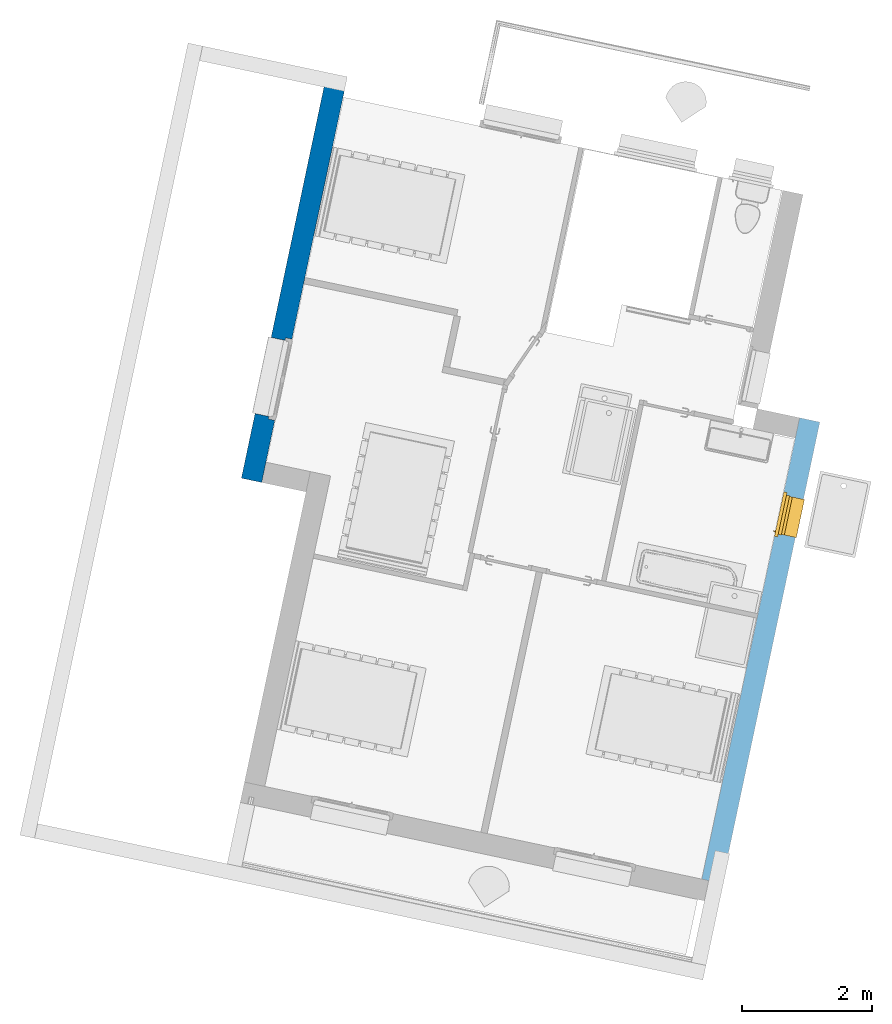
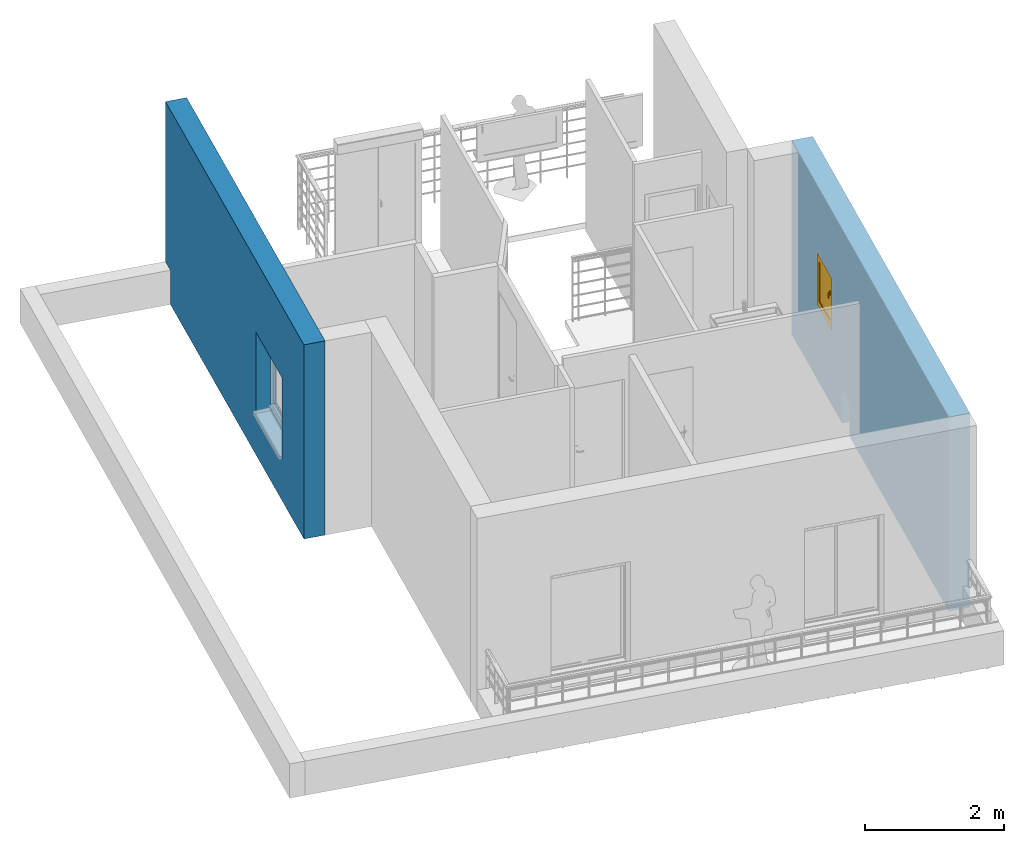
"""IFC2X3 building model written with IfcOpenShell, lengths in metres."""

from ifc_helpers import new_model, entity, si_unit, converted_unit, derived_unit, direction, frame, frame_2d, origin, place, context, subcontext, project, spatial, polyline, rectangle, extrude, clip, bounded_halfspace, faceted_brep, source, transform, mapped, material, material_list, layer, layer_set, layer_usage, type_object, type_shapes, element, fill, save


model = new_model("IFC2X3")

# Units and contexts
model_context = context("Model", 3, precision=1e-05, world=origin(), true_north=direction((6.12303176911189e-17, 1.0)))
body_context = subcontext(model_context, "Body", "Model", "MODEL_VIEW")
ifc_project = project(units=[si_unit("LENGTHUNIT", "METRE"), si_unit("AREAUNIT", "SQUARE_METRE"), si_unit("VOLUMEUNIT", "CUBIC_METRE"), converted_unit("PLANEANGLEUNIT", "DEGREE", entity("IfcRatioMeasure", 0.0174532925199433), si_unit("PLANEANGLEUNIT", "RADIAN"), dimensions=[0, 0, 0, 0, 0, 0, 0]), si_unit("MASSUNIT", "GRAM", prefix="KILO"), derived_unit("MASSDENSITYUNIT", [(si_unit("MASSUNIT", "GRAM", prefix="KILO"), 1), (si_unit("LENGTHUNIT", "METRE"), -3)]), si_unit("TIMEUNIT", "SECOND"), si_unit("FREQUENCYUNIT", "HERTZ"), si_unit("THERMODYNAMICTEMPERATUREUNIT", "DEGREE_CELSIUS"), derived_unit("THERMALTRANSMITTANCEUNIT", [(si_unit("MASSUNIT", "GRAM", prefix="KILO"), 1), (si_unit("THERMODYNAMICTEMPERATUREUNIT", "KELVIN"), -1), (si_unit("TIMEUNIT", "SECOND"), -3)]), derived_unit("VOLUMETRICFLOWRATEUNIT", [(si_unit("LENGTHUNIT", "METRE"), 3), (si_unit("TIMEUNIT", "SECOND"), -1)]), si_unit("ELECTRICCURRENTUNIT", "AMPERE"), si_unit("ELECTRICVOLTAGEUNIT", "VOLT"), si_unit("POWERUNIT", "WATT"), si_unit("FORCEUNIT", "NEWTON", prefix="KILO"), si_unit("ILLUMINANCEUNIT", "LUX"), si_unit("LUMINOUSFLUXUNIT", "LUMEN"), si_unit("LUMINOUSINTENSITYUNIT", "CANDELA"), derived_unit("USERDEFINED", [(si_unit("MASSUNIT", "GRAM", prefix="KILO"), -1), (si_unit("LENGTHUNIT", "METRE"), -2), (si_unit("TIMEUNIT", "SECOND"), 3), (si_unit("LUMINOUSFLUXUNIT", "LUMEN"), 1)]), derived_unit("LINEARVELOCITYUNIT", [(si_unit("LENGTHUNIT", "METRE"), 1), (si_unit("TIMEUNIT", "SECOND"), -1)]), si_unit("PRESSUREUNIT", "PASCAL"), derived_unit("USERDEFINED", [(si_unit("LENGTHUNIT", "METRE"), -2), (si_unit("MASSUNIT", "GRAM", prefix="KILO"), 1), (si_unit("TIMEUNIT", "SECOND"), -2)])], contexts=[model_context])

# Site, building, storey
site_placement = place(None, origin())
site = spatial("IfcSite", under=ifc_project, at=site_placement, Name="Default", CompositionType="ELEMENT")
building_placement = place(site_placement, origin())
building = spatial("IfcBuilding", under=site, at=building_placement, CompositionType="ELEMENT")
storey_1_placement = place(building_placement, frame((0.0, 0.0, 2.8)))
storey_1 = spatial("IfcBuildingStorey", under=building, at=storey_1_placement, Name="ETAGE", CompositionType="ELEMENT", Elevation=2.8)

# Wall, opening
ifc_material_1 = material(Name="Enduit blanc cassé2")
ifc_layer_1 = layer(ifc_material_1, 0.02)
ifc_material_2 = material(Name="Parpaing")
ifc_layer_2 = layer(ifc_material_2, 0.2)
ifc_material_3 = material(Name="Isolant")
ifc_layer_3 = layer(ifc_material_3, 0.1)
ifc_layer_set = layer_set([ifc_layer_1, ifc_layer_2, ifc_layer_3], Name="Mur de base:Ext. Parpaing 20 + Isolant 10 enduit blanc cassé")
ifc_layer_usage = layer_usage(ifc_layer_set, "AXIS2", "POSITIVE", -0.16)
wall_type = type_object("IfcWallType", Name="Mur de base:Ext. Parpaing 20 + Isolant 10 enduit blanc cassé", PredefinedType="STANDARD", material=ifc_layer_set)
wall_1_placement = place(storey_1_placement, frame((-11.7345230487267, 74.3445011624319, 0.0), z_axis=(0.0, 0.0, 1.0), x_axis=(0.207484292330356, 0.978238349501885, 0.0)))
wall_1 = element("IfcWallStandardCase", 1, at=wall_1_placement, inside=storey_1, type_object=wall_type, material=ifc_layer_usage, Name="Mur de base:Ext. Parpaing 20 + Isolant 10 enduit blanc cassé", ObjectType="Mur de base:Ext. Parpaing 20 + Isolant 10 enduit blanc cassé", context=body_context, shape_type="Clipping", body=[
    clip(extrude(rectangle(XDim=7.28, YDim=0.320000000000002, at=frame_2d((3.64, -4.16333634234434e-17), x_axis=(-1.0, 0.0))), origin(), (0.0, 0.0, 1.0), 3.40000000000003), bounded_halfspace(frame((4.60478728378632, -0.159999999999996, 0.58)), True, frame((4.60478728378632, -0.159999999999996, 0.58)), polyline([(0.0, 0.0), (0.340000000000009, 0.0), (0.340000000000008, 0.32), (0.0, 0.320000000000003), (0.0, 0.0)]))),
])
opening_placement = place(wall_1_placement, frame((5.25703090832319, 0.456950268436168, 1.24), z_axis=(0.0, 0.0, 1.0), x_axis=(0.207484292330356, -0.978238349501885, 0.0)))
opening = element("IfcOpeningElement", 2, at=opening_placement, cuts=wall_1, Name="Mur de base:Ext. Parpaing 20 + Isolant 10 enduit blanc cassé", ObjectType="Opening", context=body_context, shape_type="Brep", body=[
    faceted_brep([(0.410860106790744, 0.120340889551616, 0.0800000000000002), (0.410860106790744, 0.120340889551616, 0.0), (0.978238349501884, 0.0, 0.0), (0.978238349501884, 0.0, 0.93), (0.430424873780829, 0.116191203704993, 0.93), (0.430424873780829, 0.116191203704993, 0.0800000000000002), (0.12449057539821, 0.79442730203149, 0.0800000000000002), (0.12449057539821, 0.79442730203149, 0.93), (0.457091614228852, 0.72388264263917, 0.93), (0.457091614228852, 0.72388264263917, 0.0800000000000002), (0.0, 0.207484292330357, 0.0800000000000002), (0.467465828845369, 0.772794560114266, 0.0800000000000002), (0.516377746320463, 0.762420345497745, 0.0800000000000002), (0.508078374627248, 0.723290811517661, 0.0800000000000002), (0.556990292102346, 0.712916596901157, 0.0800000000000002), (0.554915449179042, 0.703134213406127, 0.0800000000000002), (0.535350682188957, 0.70728389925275, 0.0800000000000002), (0.428350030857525, 0.106408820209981, 0.0800000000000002), (0.379438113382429, 0.116783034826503, 0.0800000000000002), (0.371138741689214, 0.0776535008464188, 0.0800000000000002), (0.322226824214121, 0.0880277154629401, 0.0800000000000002), (0.332601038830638, 0.136939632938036, 0.0800000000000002), (0.0, 0.207484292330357, 0.93), (0.332601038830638, 0.136939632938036, 0.93), (1.1027289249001, 0.586943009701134, 0.0), (1.10272892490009, 0.586943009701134, 0.93), (0.535350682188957, 0.70728389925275, 0.0), (0.371138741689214, 0.0776535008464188, 0.979999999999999), (0.322226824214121, 0.0880277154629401, 0.979999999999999), (0.379438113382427, 0.116783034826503, 0.94), (0.508078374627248, 0.723290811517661, 0.94), (0.516377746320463, 0.762420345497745, 0.979999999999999), (0.428350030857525, 0.106408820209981, 0.94), (0.554915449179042, 0.703134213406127, 0.93), (0.556990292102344, 0.712916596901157, 0.94), (0.467465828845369, 0.772794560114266, 0.979999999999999)], [[[0, 1, 2, 3, 4, 5]], [[6, 7, 8, 9]], [[10, 6, 9, 11, 12, 13, 14, 15, 16, 0, 5, 17, 18, 19, 20, 21]], [[10, 22, 7, 6]], [[7, 22, 23, 8]], [[3, 2, 24, 25]], [[2, 1, 26, 24]], [[1, 0, 16, 26]], [[20, 19, 27, 28]], [[19, 18, 29, 30, 13, 12, 31, 27]], [[18, 17, 32, 29]], [[17, 5, 4, 33, 15, 14, 34, 32]], [[21, 20, 28, 35, 11, 9, 8, 23]], [[28, 27, 31, 35]], [[30, 29, 32, 34]], [[31, 12, 11, 35]], [[13, 30, 34, 14]], [[3, 25, 33, 4]], [[25, 24, 26, 16, 15, 33]], [[22, 10, 21, 23]]]),
])

# Storey
storey_2_placement = place(building_placement, frame((0.0, 0.0, 2.82)))
storey_2 = spatial("IfcBuildingStorey", under=building, at=storey_2_placement, Name="Etage 1", CompositionType="ELEMENT", Elevation=2.82)

# Window
ifc_material_4 = material(Name="Fenêtre - Poignée")
ifc_material_5 = material(Name="Fenêtre - Appui")
ifc_material_6 = material(Name="Verre - Opaque Blanc")
ifc_material_7 = material(Name="PVC - Blanc")
ifc_material_8 = material(Name="Fenêtre - Cadre")
ifc_material_list_1 = material_list([ifc_material_4, ifc_material_5, ifc_material_6, ifc_material_7, ifc_material_8])
ifc_material_list_2 = material_list([ifc_material_4, ifc_material_5, ifc_material_6, ifc_material_7, ifc_material_8])
window_style = type_object("IfcWindowStyle", Name=".60 X 0.85 HT 2", ConstructionType="NOTDEFINED", OperationType="SINGLE_PANEL", ParameterTakesPrecedence=False, Sizeable=False, material=ifc_material_list_2)
shared_shape = source(origin(), body_context, "Body", "Brep", [
    faceted_brep([(0.619353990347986, 0.653999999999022, 0.702033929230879), (0.630646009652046, 0.653999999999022, 0.702033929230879), (0.632033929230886, 0.653999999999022, 0.700646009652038), (0.632033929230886, 0.653999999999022, 0.689332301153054), (0.63066769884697, 0.653999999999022, 0.687966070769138), (0.619332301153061, 0.653999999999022, 0.687966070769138), (0.617966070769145, 0.653999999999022, 0.689332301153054), (0.617966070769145, 0.653999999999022, 0.700646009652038), (0.617966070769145, 0.641661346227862, 0.700646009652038), (0.619353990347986, 0.641086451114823, 0.702033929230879), (0.617966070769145, 0.646347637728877, 0.689332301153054), (0.617966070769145, 0.639667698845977, 0.682652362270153), (0.617966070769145, 0.639667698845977, 0.600000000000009), (0.617966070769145, 0.628353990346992, 0.600000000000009), (0.617966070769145, 0.628353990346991, 0.687338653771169), (0.619332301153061, 0.646913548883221, 0.687966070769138), (0.63066769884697, 0.646913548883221, 0.687966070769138), (0.632033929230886, 0.646347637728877, 0.689332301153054), (0.632033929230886, 0.641661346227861, 0.700646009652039), (0.632033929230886, 0.628353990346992, 0.687338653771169), (0.632033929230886, 0.628353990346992, 0.600000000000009), (0.632033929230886, 0.639667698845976, 0.600000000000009), (0.632033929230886, 0.639667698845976, 0.682652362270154), (0.630646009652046, 0.641086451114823, 0.702033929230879), (0.619353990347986, 0.626966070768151, 0.687913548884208), (0.619332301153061, 0.641033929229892, 0.68208645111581), (0.63066769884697, 0.641033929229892, 0.68208645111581), (0.630646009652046, 0.626966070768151, 0.687913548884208), (0.619353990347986, 0.626966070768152, 0.600000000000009), (0.619332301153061, 0.641033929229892, 0.600000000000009), (0.63066769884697, 0.641033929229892, 0.600000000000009), (0.630646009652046, 0.626966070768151, 0.600000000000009)], [[[0, 1, 2, 3, 4, 5, 6, 7]], [[7, 8, 9, 0]], [[6, 10, 11, 12, 13, 14, 8, 7]], [[5, 15, 10, 6]], [[4, 16, 15, 5]], [[3, 17, 16, 4]], [[2, 18, 19, 20, 21, 22, 17, 3]], [[1, 23, 18, 2]], [[0, 9, 23, 1]], [[8, 14, 24, 9]], [[15, 25, 11, 10]], [[16, 26, 25, 15]], [[17, 22, 26, 16]], [[23, 27, 19, 18]], [[9, 24, 27, 23]], [[28, 13, 12, 29, 30, 21, 20, 31]], [[14, 13, 28, 24]], [[25, 29, 12, 11]], [[26, 30, 29, 25]], [[22, 21, 30, 26]], [[27, 31, 20, 19]], [[24, 28, 31, 27]]]),
    faceted_brep([(0.618000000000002, 0.654000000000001, 0.720000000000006), (0.613000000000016, 0.654000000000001, 0.715000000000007), (0.613000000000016, 0.654000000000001, 0.644999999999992), (0.618000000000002, 0.654000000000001, 0.640000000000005), (0.63200000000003, 0.654000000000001, 0.640000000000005), (0.637000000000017, 0.654000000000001, 0.644999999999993), (0.637000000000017, 0.654000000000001, 0.715000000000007), (0.632000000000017, 0.654000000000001, 0.720000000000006), (0.618000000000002, 0.660000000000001, 0.720000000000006), (0.632000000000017, 0.660000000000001, 0.720000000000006), (0.637000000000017, 0.660000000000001, 0.715000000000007), (0.637000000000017, 0.660000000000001, 0.644999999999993), (0.63200000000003, 0.660000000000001, 0.640000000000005), (0.618000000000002, 0.660000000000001, 0.640000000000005), (0.613000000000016, 0.660000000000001, 0.644999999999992), (0.613000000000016, 0.660000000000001, 0.715000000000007)], [[[0, 1, 2, 3, 4, 5, 6, 7]], [[8, 9, 10, 11, 12, 13, 14, 15]], [[7, 9, 8, 0]], [[6, 10, 9, 7]], [[5, 11, 10, 6]], [[4, 12, 11, 5]], [[3, 13, 12, 4]], [[2, 14, 13, 3]], [[1, 15, 14, 2]], [[0, 8, 15, 1]]]),
    faceted_brep([(0.650000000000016, 0.740000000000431, 0.0799999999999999), (0.650000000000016, 0.740000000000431, 0.0), (0.650000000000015, 0.995000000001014, 0.0), (0.650000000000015, 0.995000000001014, 0.0434536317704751), (0.650000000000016, 0.790000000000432, 0.0650000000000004), (0.650000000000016, 0.790000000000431, 0.0799999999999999), (0.0500000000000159, 0.74000000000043, 0.0799999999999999), (0.0500000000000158, 0.79000000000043, 0.0799999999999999), (0.0500000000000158, 0.790000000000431, 0.0650000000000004), (0.0500000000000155, 0.995000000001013, 0.0434536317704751), (0.0500000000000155, 0.995000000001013, 0.0), (0.0500000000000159, 0.74000000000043, 0.0)], [[[0, 1, 2, 3, 4, 5]], [[6, 7, 8, 9, 10, 11]], [[5, 7, 6, 0]], [[4, 8, 7, 5]], [[3, 9, 8, 4]], [[2, 10, 9, 3]], [[1, 11, 10, 2]], [[0, 6, 11, 1]]]),
    faceted_brep([(0.600000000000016, 0.68599999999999, 0.18), (0.100000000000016, 0.685999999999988, 0.18), (0.100000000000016, 0.685999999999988, 0.88), (0.600000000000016, 0.68599999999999, 0.88), (0.600000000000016, 0.67399999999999, 0.18), (0.600000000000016, 0.67399999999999, 0.88), (0.100000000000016, 0.673999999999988, 0.88), (0.100000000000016, 0.673999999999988, 0.18)], [[[0, 1, 2, 3]], [[4, 5, 6, 7]], [[3, 5, 4, 0]], [[2, 6, 5, 3]], [[1, 7, 6, 2]], [[0, 4, 7, 1]]]),
    faceted_brep([(0.600000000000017, 0.699999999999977, 0.179999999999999), (0.100000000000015, 0.699999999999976, 0.179999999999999), (0.100000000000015, 0.659999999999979, 0.179999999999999), (0.600000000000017, 0.65999999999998, 0.179999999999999), (0.650000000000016, 0.659999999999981, 0.13), (0.0500000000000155, 0.659999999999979, 0.13), (0.0500000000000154, 0.699999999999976, 0.13), (0.650000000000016, 0.699999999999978, 0.13), (0.100000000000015, 0.699999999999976, 0.880000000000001), (0.100000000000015, 0.659999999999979, 0.88), (0.0500000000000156, 0.659999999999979, 0.93), (0.0500000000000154, 0.699999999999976, 0.93), (0.600000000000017, 0.699999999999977, 0.880000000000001), (0.600000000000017, 0.65999999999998, 0.880000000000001), (0.650000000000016, 0.659999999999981, 0.93), (0.650000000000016, 0.699999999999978, 0.93)], [[[0, 1, 2, 3]], [[4, 5, 6, 7]], [[1, 8, 9, 2]], [[5, 10, 11, 6]], [[8, 12, 13, 9]], [[10, 14, 15, 11]], [[12, 0, 3, 13]], [[1, 0, 12, 8], [7, 6, 11, 15]], [[14, 4, 7, 15]], [[3, 2, 9, 13], [5, 4, 14, 10]]], outer=[[True], [True], [True], [True], [True], [True], [True], [False, True], [True], [False, True]]),
    faceted_brep([(0.700000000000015, 0.660000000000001, 0.0799999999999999), (0.0, 0.660000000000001, 0.0799999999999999), (0.0, 0.71, 0.0799999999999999), (0.0500000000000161, 0.71, 0.0799999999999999), (0.050000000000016, 0.794999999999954, 0.0799999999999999), (0.650000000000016, 0.794999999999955, 0.0800000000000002), (0.650000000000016, 0.71, 0.0799999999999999), (0.700000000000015, 0.71, 0.0799999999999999), (0.650000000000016, 0.71, 0.119376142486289), (0.0500000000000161, 0.71, 0.119376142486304), (0.0, 0.71, 0.979999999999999), (0.700000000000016, 0.71, 0.979999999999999), (0.635000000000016, 0.71, 0.915), (0.0650000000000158, 0.71, 0.915), (0.0650000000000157, 0.71, 0.145), (0.635000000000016, 0.71, 0.145), (0.635000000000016, 0.7, 0.145), (0.635000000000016, 0.7, 0.915), (0.0650000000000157, 0.7, 0.145), (0.0650000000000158, 0.7, 0.915), (0.0500000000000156, 0.7, 0.93), (0.0500000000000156, 0.7, 0.13), (0.650000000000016, 0.7, 0.13), (0.650000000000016, 0.7, 0.93), (0.650000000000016, 0.660000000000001, 0.13), (0.650000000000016, 0.660000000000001, 0.93), (0.0500000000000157, 0.660000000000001, 0.93), (0.0500000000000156, 0.660000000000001, 0.13), (0.700000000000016, 0.660000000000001, 0.979999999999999), (0.0, 0.660000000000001, 0.979999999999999), (0.650000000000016, 0.794999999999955, 0.0749999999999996), (0.650000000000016, 0.804999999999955, 0.0749999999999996), (0.650000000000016, 0.804999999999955, 0.0939209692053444), (0.050000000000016, 0.804999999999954, 0.0939209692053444), (0.050000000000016, 0.804999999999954, 0.0749999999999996), (0.050000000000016, 0.794999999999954, 0.0749999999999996)], [[[0, 1, 2, 3, 4, 5, 6, 7]], [[7, 6, 8, 9, 3, 2, 10, 11], [12, 13, 14, 15]], [[12, 15, 16, 17]], [[17, 16, 18, 19], [20, 21, 22, 23]], [[22, 24, 25, 23]], [[26, 25, 24, 27], [0, 28, 29, 1]], [[7, 11, 28, 0]], [[12, 17, 19, 13]], [[23, 25, 26, 20]], [[10, 29, 28, 11]], [[19, 18, 14, 13]], [[26, 27, 21, 20]], [[2, 1, 29, 10]], [[8, 6, 5, 30, 31, 32]], [[4, 3, 9, 33, 34, 35]], [[24, 22, 21, 27]], [[16, 15, 14, 18]], [[32, 33, 9, 8]], [[31, 34, 33, 32]], [[30, 35, 34, 31]], [[5, 4, 35, 30]]], outer=[[True], [True, False], [True], [False, True], [True], [False, True], [True], [True], [True], [True], [True], [True], [True], [True], [True], [True], [True], [True], [True], [True], [True]]),
    faceted_brep([(0.650000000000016, 0.760000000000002, 0.0799999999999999), (0.660000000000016, 0.760000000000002, 0.0799999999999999), (0.660000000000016, 0.71, 0.0799999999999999), (0.650000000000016, 0.71, 0.0799999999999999), (0.650000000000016, 0.71, 0.93), (0.650000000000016, 0.760000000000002, 0.93), (0.660000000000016, 0.71, 0.94), (0.0400000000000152, 0.71, 0.94), (0.0400000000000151, 0.71, 0.0799999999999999), (0.0500000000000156, 0.71, 0.0799999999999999), (0.0500000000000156, 0.71, 0.93), (0.660000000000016, 0.760000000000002, 0.94), (0.0500000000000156, 0.760000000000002, 0.93), (0.0500000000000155, 0.760000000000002, 0.0799999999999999), (0.0400000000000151, 0.760000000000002, 0.0799999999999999), (0.0400000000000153, 0.760000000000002, 0.94)], [[[0, 1, 2, 3]], [[3, 4, 5, 0]], [[2, 6, 7, 8, 9, 10, 4, 3]], [[1, 11, 6, 2]], [[0, 5, 12, 13, 14, 15, 11, 1]], [[4, 10, 12, 5]], [[11, 15, 7, 6]], [[13, 9, 8, 14]], [[10, 9, 13, 12]], [[15, 14, 8, 7]]]),
])
type_shapes(window_style, [shared_shape])
window_placement = place(opening_placement, frame((-0.178171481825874, 0.90973419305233, 0.0), z_axis=(0.0, 0.0, 1.0), x_axis=(-0.207484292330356, -0.978238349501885, 0.0)))
window = element("IfcWindow", 3, at=window_placement, inside=storey_2, type_object=window_style, material=ifc_material_list_1, Name="1 Vantail - Droit:.60 X 0.85 HT 2", ObjectType="1 Vantail - Droit:.60 X 0.85 HT 2", OverallHeight=1.08, OverallWidth=0.7, context=body_context, shape_type="MappedRepresentation", body=[
    mapped(shared_shape, transform((0.0, 0.0, 0.0), scale=1.0)),
])

fill(opening, window)

# Wall
wall_2_placement = place(storey_1_placement, frame((-18.8401178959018, 80.5333258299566, 0.0), z_axis=(0.0, 0.0, 1.0), x_axis=(0.206544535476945, 0.978437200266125, 0.0)))
element("IfcWall", 4, at=wall_2_placement, inside=storey_1, type_object=wall_type, Name="Mur de base:Ext. Parpaing 20 + Isolant 10 enduit blanc cassé", ObjectType="Mur de base:Ext. Parpaing 20 + Isolant 10 enduit blanc cassé", context=body_context, shape_type="Brep", body=[
    faceted_brep([(0.0, -0.16, 0.0), (0.320000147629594, -0.159999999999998, 0.0), (3.13402517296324, -0.16, 0.0), (3.23402522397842, -0.16, 0.0), (6.08000280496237, -0.16, 0.0), (6.17000284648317, -0.16, 0.0), (6.17000284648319, -0.16, 0.6), (6.40000295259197, -0.16, 0.6), (6.40000295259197, -0.16, 3.40000000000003), (6.08000280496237, -0.16, 3.40000000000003), (0.320000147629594, -0.159999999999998, 3.40000000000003), (0.0, -0.16, 3.40000000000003), (2.26009606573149, -0.159999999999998, 0.799999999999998), (0.980096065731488, -0.16, 0.799999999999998), (0.980096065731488, -0.16, 2.19), (0.970096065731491, -0.159999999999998, 2.19), (0.970096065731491, -0.159999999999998, 2.37), (2.27009606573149, -0.16, 2.37), (2.27009606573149, -0.16, 2.19), (2.26009606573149, -0.159999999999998, 2.19), (0.000307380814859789, 0.159999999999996, 0.0), (0.000307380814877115, 0.159999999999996, 3.40000000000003), (6.40031033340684, 0.159999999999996, 3.40000000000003), (6.40031033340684, 0.159999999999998, 0.6), (6.17031022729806, 0.159999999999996, 0.6), (6.17031022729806, 0.159999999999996, 0.0), (2.22009606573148, 0.159999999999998, 2.15), (1.0200960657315, 0.16, 2.15), (1.0200960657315, 0.16, 0.719999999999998), (2.22009606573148, 0.159999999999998, 0.719999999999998), (2.22009606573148, -0.0600000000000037, 2.15), (1.0200960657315, -0.0599999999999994, 2.15), (1.0200960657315, -0.0599999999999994, 0.799999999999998), (1.0200960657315, -0.0949999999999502, 0.799999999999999), (1.0200960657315, -0.0949999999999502, 0.754999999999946), (1.0200960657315, -0.0600000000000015, 0.719999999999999), (0.980096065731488, -0.0600000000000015, 0.799999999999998), (2.26009606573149, -0.0600000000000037, 0.799999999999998), (2.22009606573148, -0.0600000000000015, 0.799999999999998), (2.22009606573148, -0.0949999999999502, 0.799999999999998), (2.22009606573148, -0.0600000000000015, 0.719999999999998), (2.22009606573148, -0.0949999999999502, 0.754999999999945), (0.980096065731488, -0.0600000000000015, 2.19), (2.26009606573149, -0.0600000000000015, 2.19), (2.27009606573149, -0.0599999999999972, 2.19), (2.27009606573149, -0.0599999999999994, 2.37), (0.970096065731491, -0.0599999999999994, 2.37), (0.970096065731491, -0.0599999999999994, 2.19)], [[[0, 1, 2, 3, 4, 5, 6, 7, 8, 9, 10, 11], [12, 13, 14, 15, 16, 17, 18, 19]], [[20, 21, 22, 23, 24, 25], [26, 27, 28, 29]], [[5, 4, 3, 2, 1, 0, 20, 25]], [[11, 10, 9, 8, 22, 21]], [[0, 11, 21, 20]], [[27, 26, 30, 31]], [[27, 31, 32, 33, 34, 35, 28]], [[32, 36, 13, 12, 37, 38, 39, 33]], [[30, 26, 29, 40, 41, 39, 38]], [[36, 42, 14, 13]], [[36, 32, 31, 30, 38, 37, 43, 44, 45, 46, 47, 42]], [[43, 37, 12, 19]], [[35, 34, 41, 40]], [[34, 33, 39, 41]], [[35, 40, 29, 28]], [[47, 46, 16, 15]], [[45, 44, 18, 17]], [[46, 45, 17, 16]], [[42, 47, 15, 14]], [[23, 7, 6, 24]], [[6, 5, 25, 24]], [[8, 7, 23, 22]], [[44, 43, 19, 18]]]),
])

save(model, "model.ifc")
